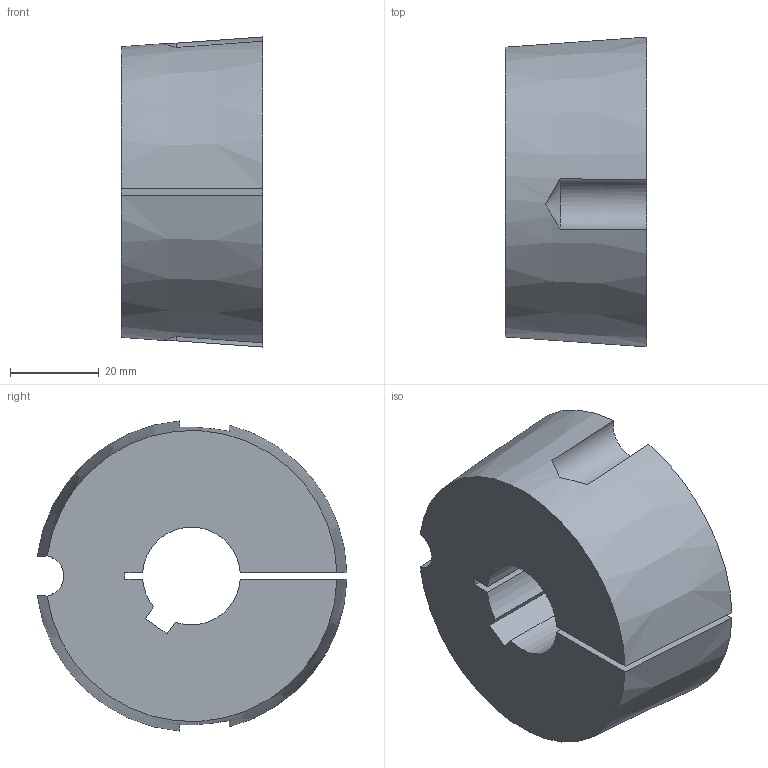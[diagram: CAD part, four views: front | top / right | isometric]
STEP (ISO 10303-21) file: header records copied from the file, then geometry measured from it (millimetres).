
FILE_DESCRIPTION( ( 'STEP AP203' ), '1' );
FILE_NAME( 'D:/export/antriebselemente/spannbuchsen_und_spannsaetze/taper-spannbuchsen_1008_bis_5050/taper-spannbuchsen_62250522Isometric_116.stp', '2018-12-11T11:11:12', ( '' ), ( '' ), ' ', 'PARTsolutions', ' ' );
FILE_SCHEMA( ( 'CONFIG_CONTROL_DESIGN' ) );
Length unit declared in the file: millimetre
Products named in the file (1): _taper-spannbuchsen_62250522
Bounding box: 31.8 x 69.72 x 69.81 mm (x, y, z)
Volume: 97244 mm3; surface area: 17488.6 mm2
Topology: 1 solids, 1 shells, 20 faces, 54 edges, 36 vertices
Faces by surface type: plane 10, cylinder 6, cone 4
Entity records: 752 total; most frequent: CARTESIAN_POINT 203, ORIENTED_EDGE 108, DIRECTION 104, EDGE_CURVE 54, AXIS2_PLACEMENT_3D 39, VERTEX_POINT 36, LINE 26, VECTOR 26
